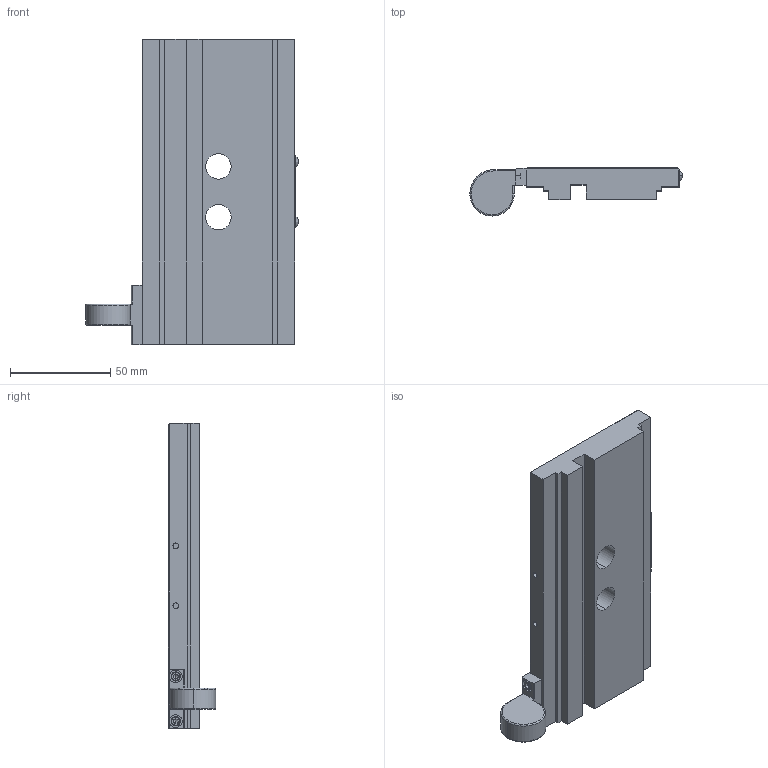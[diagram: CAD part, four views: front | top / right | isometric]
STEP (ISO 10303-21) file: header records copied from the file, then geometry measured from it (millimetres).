
FILE_DESCRIPTION (( 'STEP AP214' ), '1' );
FILE_NAME ('Newport-443 mobile.STEP', '2022-12-14T09:36:38', ( '' ), ( '' ), 'SwSTEP 2.0', 'SolidWorks 2018', '' );
FILE_SCHEMA (( 'AUTOMOTIVE_DESIGN' ));
Length unit declared in the file: millimetre
Products named in the file (1): Newport-443 mobile
Bounding box: 106.15 x 23.8 x 152.6 mm (x, y, z)
Volume: 152401.3 mm3; surface area: 37034.7 mm2
Topology: 1 solids, 8 shells, 250 faces, 564 edges, 349 vertices
Faces by surface type: plane 126, cylinder 84, cone 20, torus 16, bspline 4
Entity records: 7151 total; most frequent: CARTESIAN_POINT 1379, DIRECTION 1281, ORIENTED_EDGE 1112, EDGE_CURVE 556, AXIS2_PLACEMENT_3D 489, VERTEX_POINT 349, LINE 303, VECTOR 303
